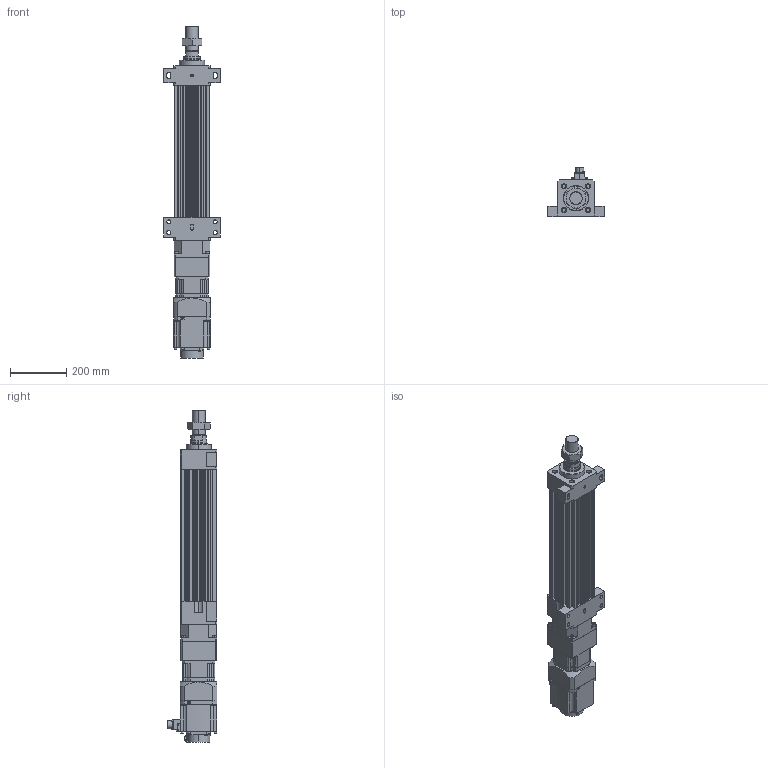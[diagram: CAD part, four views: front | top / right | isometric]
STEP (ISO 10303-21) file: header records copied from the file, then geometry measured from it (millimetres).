
FILE_DESCRIPTION (( 'STEP AP203' ), '1' );
FILE_NAME ('HES130NS(FS)(HS)-S250-W015G00-M-FFB.STEP', '2023-01-30T09:08:08', ( 'tms' ), ( '' ), 'SwSTEP 2.0', 'SolidWorks 2013', '' );
FILE_SCHEMA (( 'CONFIG_CONTROL_DESIGN' ));
Length unit declared in the file: millimetre
Products named in the file (8): P0401400706; HES130NS(FS)(HS)-S250-W015G00-M-FFB; AB115-003[HG-SR152]; AB1151; HG-SR152; M45X1.5P; HES130-S250-G120-FFB; HES130 ROD M ST250
Assembly tree (7 placements, depth 3):
  HES130NS(FS)(HS)-S250-W015G00-M-FFB
    HES130-S250-G120-FFB
    HES130 ROD M ST250
    M45X1.5P
    AB115-003[HG-SR152]
      AB1151
      P0401400706
    HG-SR152
Bounding box: 200 x 177.49 x 1179.5 mm (x, y, z)
Volume: 9430505 mm3; surface area: 1176507.5 mm2
Topology: 4 solids, 15 shells, 1211 faces, 3070 edges, 1998 vertices
Faces by surface type: plane 571, cylinder 546, cone 82, bspline 8, torus 4
Entity records: 38310 total; most frequent: CARTESIAN_POINT 7264, DIRECTION 6633, ORIENTED_EDGE 6092, EDGE_CURVE 3056, AXIS2_PLACEMENT_3D 2435, VERTEX_POINT 1998, LINE 1763, VECTOR 1763
